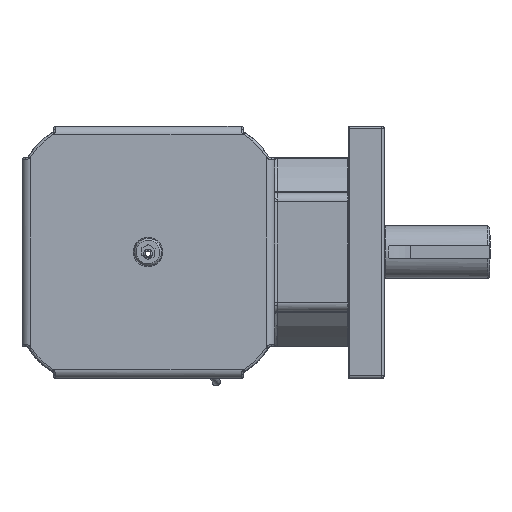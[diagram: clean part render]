
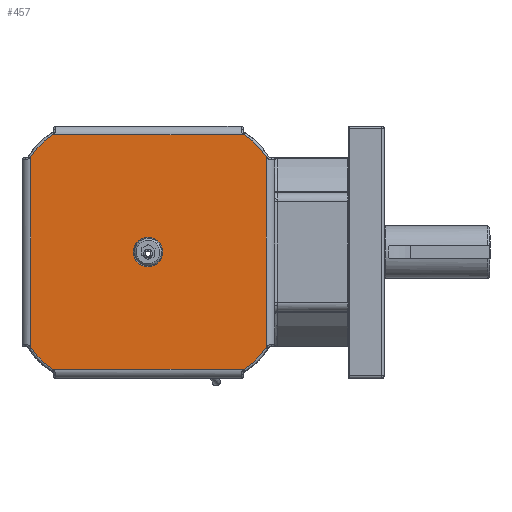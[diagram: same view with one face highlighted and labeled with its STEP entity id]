
A CAD part, top view. The second image highlights one B-rep face of the part: STEP entity #457.
In plain terms, the highlighted planar face has unit normal (0, 0, 1).
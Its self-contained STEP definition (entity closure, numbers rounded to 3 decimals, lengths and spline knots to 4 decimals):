
#429 = VERTEX_POINT ( 'NONE', #40990 ) ;
#457 = ADVANCED_FACE ( 'NONE', ( #41065, #41064 ), #41063, .F. ) ;
#458 = ORIENTED_EDGE ( 'NONE', *, *, #539, .F. ) ;
#459 = ORIENTED_EDGE ( 'NONE', *, *, #9238, .F. ) ;
#460 = EDGE_LOOP ( 'NONE', ( #461, #462, #463, #464, #465, #526, #529, #531 ) ) ;
#461 = ORIENTED_EDGE ( 'NONE', *, *, #482, .T. ) ;
#462 = ORIENTED_EDGE ( 'NONE', *, *, #4995, .T. ) ;
#463 = ORIENTED_EDGE ( 'NONE', *, *, #36241, .T. ) ;
#464 = ORIENTED_EDGE ( 'NONE', *, *, #36353, .T. ) ;
#465 = ORIENTED_EDGE ( 'NONE', *, *, #466, .T. ) ;
#466 = EDGE_CURVE ( 'NONE', #36288, #525, #41057, .T. ) ;
#478 = EDGE_LOOP ( 'NONE', ( #458, #459 ) ) ;
#482 = EDGE_CURVE ( 'NONE', #493, #4996, #41494, .T. ) ;
#493 = VERTEX_POINT ( 'NONE', #41523 ) ;
#495 = EDGE_CURVE ( 'NONE', #429, #493, #41522, .T. ) ;
#525 = VERTEX_POINT ( 'NONE', #42022 ) ;
#526 = ORIENTED_EDGE ( 'NONE', *, *, #527, .T. ) ;
#527 = EDGE_CURVE ( 'NONE', #525, #528, #42021, .T. ) ;
#528 = VERTEX_POINT ( 'NONE', #42016 ) ;
#529 = ORIENTED_EDGE ( 'NONE', *, *, #530, .T. ) ;
#530 = EDGE_CURVE ( 'NONE', #528, #429, #42015, .T. ) ;
#531 = ORIENTED_EDGE ( 'NONE', *, *, #495, .T. ) ;
#539 = EDGE_CURVE ( 'NONE', #9239, #9236, #41997, .T. ) ;
#4995 = EDGE_CURVE ( 'NONE', #4996, #36242, #16030, .T. ) ;
#4996 = VERTEX_POINT ( 'NONE', #16026 ) ;
#9236 = VERTEX_POINT ( 'NONE', #34455 ) ;
#9238 = EDGE_CURVE ( 'NONE', #9236, #9239, #34454, .T. ) ;
#9239 = VERTEX_POINT ( 'NONE', #34449 ) ;
#16026 = CARTESIAN_POINT ( 'NONE',  ( 1.671, 1.3516, 12.228 ) ) ;
#16027 = DIRECTION ( 'NONE',  ( -1., 0., 0. ) ) ;
#16028 = DIRECTION ( 'NONE',  ( 0., 0., 1. ) ) ;
#16029 = AXIS2_PLACEMENT_3D ( 'NONE', #16035, #16028, #16027 ) ;
#16030 = CIRCLE ( 'NONE', #16029, 0.9528 ) ;
#16035 = CARTESIAN_POINT ( 'NONE',  ( 0.861, 0.85, 12.228 ) ) ;
#34449 = CARTESIAN_POINT ( 'NONE',  ( 0.2093, 0., 12.228 ) ) ;
#34450 = DIRECTION ( 'NONE',  ( 1., 0., 0. ) ) ;
#34451 = DIRECTION ( 'NONE',  ( 0., 0., 1. ) ) ;
#34452 = CARTESIAN_POINT ( 'NONE',  ( 0., 0., 12.228 ) ) ;
#34453 = AXIS2_PLACEMENT_3D ( 'NONE', #34452, #34451, #34450 ) ;
#34454 = CIRCLE ( 'NONE', #34453, 0.2093 ) ;
#34455 = CARTESIAN_POINT ( 'NONE',  ( -0.2093, 0., 12.228 ) ) ;
#36239 = VERTEX_POINT ( 'NONE', #49906 ) ;
#36241 = EDGE_CURVE ( 'NONE', #36242, #36239, #49879, .T. ) ;
#36242 = VERTEX_POINT ( 'NONE', #49898 ) ;
#36288 = VERTEX_POINT ( 'NONE', #51327 ) ;
#36353 = EDGE_CURVE ( 'NONE', #36239, #36288, #51930, .T. ) ;
#40990 = CARTESIAN_POINT ( 'NONE',  ( 1.3626, -1.66, 12.228 ) ) ;
#41057 = LINE ( 'NONE', #41443, #41442 ) ;
#41059 = DIRECTION ( 'NONE',  ( -1., 0., 0. ) ) ;
#41060 = DIRECTION ( 'NONE',  ( 0., 0., -1. ) ) ;
#41061 = CARTESIAN_POINT ( 'NONE',  ( -1.785, -1.785, 12.228 ) ) ;
#41062 = AXIS2_PLACEMENT_3D ( 'NONE', #41061, #41060, #41059 ) ;
#41063 = PLANE ( 'NONE',  #41062 ) ;
#41064 = FACE_OUTER_BOUND ( 'NONE', #460, .T. ) ;
#41065 = FACE_BOUND ( 'NONE', #478, .T. ) ;
#41442 = VECTOR ( 'NONE', #41512, 39.3701 ) ;
#41443 = CARTESIAN_POINT ( 'NONE',  ( -1.66, -1.785, 12.228 ) ) ;
#41486 = DIRECTION ( 'NONE',  ( 0., 1., 0. ) ) ;
#41487 = VECTOR ( 'NONE', #41486, 39.3701 ) ;
#41488 = CARTESIAN_POINT ( 'NONE',  ( 1.671, 1.337, 12.228 ) ) ;
#41494 = LINE ( 'NONE', #41488, #41487 ) ;
#41512 = DIRECTION ( 'NONE',  ( 0., -1., 0. ) ) ;
#41518 = DIRECTION ( 'NONE',  ( -1., 0., 0. ) ) ;
#41519 = DIRECTION ( 'NONE',  ( 0., 0., 1. ) ) ;
#41520 = CARTESIAN_POINT ( 'NONE',  ( 0.861, -0.85, 12.228 ) ) ;
#41521 = AXIS2_PLACEMENT_3D ( 'NONE', #41520, #41519, #41518 ) ;
#41522 = CIRCLE ( 'NONE', #41521, 0.9528 ) ;
#41523 = CARTESIAN_POINT ( 'NONE',  ( 1.671, -1.3516, 12.228 ) ) ;
#41996 = AXIS2_PLACEMENT_3D ( 'NONE', #42047, #42046, #42045 ) ;
#41997 = CIRCLE ( 'NONE', #41996, 0.2093 ) ;
#42012 = DIRECTION ( 'NONE',  ( 1., 0., 0. ) ) ;
#42013 = VECTOR ( 'NONE', #42012, 39.3701 ) ;
#42014 = CARTESIAN_POINT ( 'NONE',  ( -1.785, -1.66, 12.228 ) ) ;
#42015 = LINE ( 'NONE', #42014, #42013 ) ;
#42016 = CARTESIAN_POINT ( 'NONE',  ( -1.3516, -1.66, 12.228 ) ) ;
#42017 = DIRECTION ( 'NONE',  ( -1., 0., 0. ) ) ;
#42018 = DIRECTION ( 'NONE',  ( 0., 0., 1. ) ) ;
#42019 = CARTESIAN_POINT ( 'NONE',  ( -0.85, -0.85, 12.228 ) ) ;
#42020 = AXIS2_PLACEMENT_3D ( 'NONE', #42019, #42018, #42017 ) ;
#42021 = CIRCLE ( 'NONE', #42020, 0.9527 ) ;
#42022 = CARTESIAN_POINT ( 'NONE',  ( -1.66, -1.3516, 12.228 ) ) ;
#42045 = DIRECTION ( 'NONE',  ( 1., 0., 0. ) ) ;
#42046 = DIRECTION ( 'NONE',  ( 0., 0., 1. ) ) ;
#42047 = CARTESIAN_POINT ( 'NONE',  ( 0., 0., 12.228 ) ) ;
#49879 = LINE ( 'NONE', #49901, #49900 ) ;
#49898 = CARTESIAN_POINT ( 'NONE',  ( 1.3626, 1.66, 12.228 ) ) ;
#49899 = DIRECTION ( 'NONE',  ( -1., 0., 0. ) ) ;
#49900 = VECTOR ( 'NONE', #49899, 39.3701 ) ;
#49901 = CARTESIAN_POINT ( 'NONE',  ( -1.785, 1.66, 12.228 ) ) ;
#49906 = CARTESIAN_POINT ( 'NONE',  ( -1.3516, 1.66, 12.228 ) ) ;
#51327 = CARTESIAN_POINT ( 'NONE',  ( -1.66, 1.3516, 12.228 ) ) ;
#51926 = DIRECTION ( 'NONE',  ( -1., 0., 0. ) ) ;
#51927 = DIRECTION ( 'NONE',  ( 0., 0., 1. ) ) ;
#51928 = CARTESIAN_POINT ( 'NONE',  ( -0.85, 0.85, 12.228 ) ) ;
#51929 = AXIS2_PLACEMENT_3D ( 'NONE', #51928, #51927, #51926 ) ;
#51930 = CIRCLE ( 'NONE', #51929, 0.9527 ) ;
